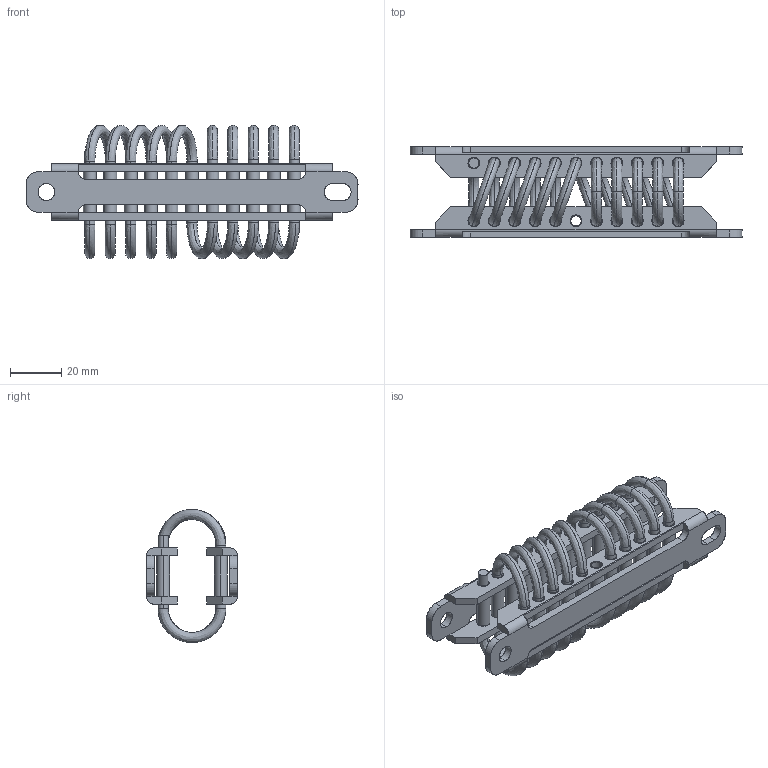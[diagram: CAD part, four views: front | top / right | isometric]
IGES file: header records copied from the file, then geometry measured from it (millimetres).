
Start section: SolidWorks IGES file using analytic representation for surfaces
Bounding box: 130 x 35.6 x 52.18 mm (x, y, z)
Surface area: 38937.7 mm2 (no closed solid volume)
Topology: 0 solids, 0 shells, 278 faces, 7480 edges, 7480 vertices
Faces by surface type: bspline 160, revolution 118
